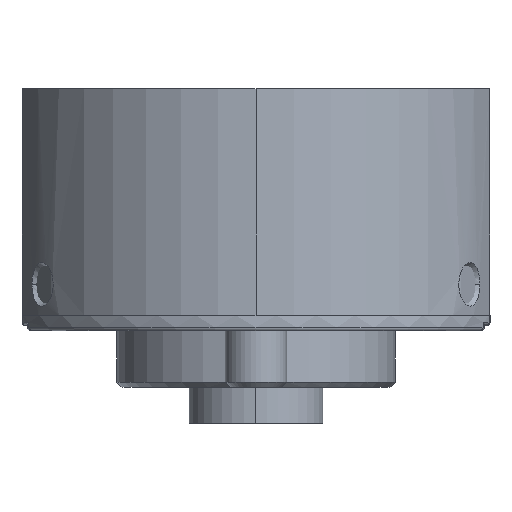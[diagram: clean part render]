
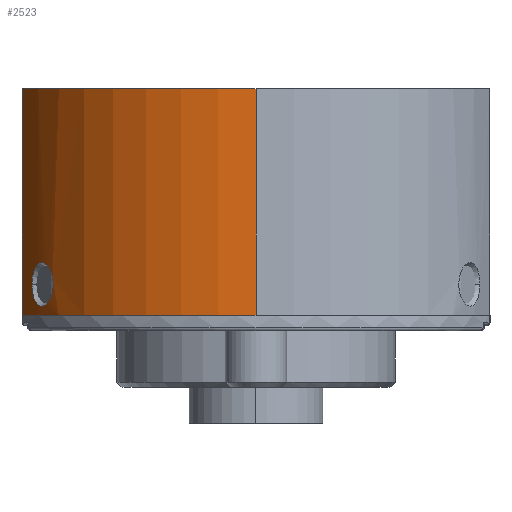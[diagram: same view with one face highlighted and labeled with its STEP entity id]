
A CAD part, front view. The second image highlights one B-rep face of the part: STEP entity #2523.
In plain terms, the highlighted cylindrical face has radius 24 mm (diameter 48 mm), a partial arc.
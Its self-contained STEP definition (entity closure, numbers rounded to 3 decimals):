
#57 = B_SPLINE_CURVE_WITH_KNOTS ( 'NONE', 3,
 ( #5719, #6484, #2310, #4993, #6576, #2880, #5861, #7968, #4382, #2930, #5810, #2218, #7294, #8780, #2261, #5134, #1547, #4427, #8976, #1693, #3121, #919, #1827, #3256, #6729, #7534, #9070, #6675, #2541, #156 ),
 .UNSPECIFIED., .F., .F.,
 ( 4, 2, 2, 2, 2, 2, 2, 2, 2, 2, 2, 2, 2, 2, 4 ),
 ( 0.009, 0.01, 0.011, 0.011, 0.011, 0.012, 0.012, 0.013, 0.013, 0.014, 0.014, 0.015, 0.015, 0.015, 0.016 ),
 .UNSPECIFIED. ) ;
#89 = CARTESIAN_POINT ( 'NONE',  ( -21.734, 19., -10.181 ) ) ;
#113 = VERTEX_POINT ( 'NONE', #2098 ) ;
#156 = CARTESIAN_POINT ( 'NONE',  ( -19.684, 19., -13.731 ) ) ;
#291 = CARTESIAN_POINT ( 'NONE',  ( -21.734, 19., -10.181 ) ) ;
#356 = VERTEX_POINT ( 'NONE', #89 ) ;
#386 = CARTESIAN_POINT ( 'NONE',  ( -19.691, 19.272, -13.721 ) ) ;
#919 = CARTESIAN_POINT ( 'NONE',  ( -19.964, 17.614, -13.321 ) ) ;
#962 = CARTESIAN_POINT ( 'NONE',  ( -19.799, 19.925, -13.565 ) ) ;
#1011 = CARTESIAN_POINT ( 'NONE',  ( -19.742, 19.672, -13.648 ) ) ;
#1052 = CARTESIAN_POINT ( 'NONE',  ( -20.509, 21.045, -12.466 ) ) ;
#1222 = DIRECTION ( 'NONE',  ( 0., 1., 0. ) ) ;
#1275 = DIRECTION ( 'NONE',  ( 0., 0., 1. ) ) ;
#1545 = DIRECTION ( 'NONE',  ( 0., 1., 0. ) ) ;
#1547 = CARTESIAN_POINT ( 'NONE',  ( -20.507, 16.942, -12.47 ) ) ;
#1624 = CIRCLE ( 'NONE', #8153, 24. ) ;
#1693 = CARTESIAN_POINT ( 'NONE',  ( -20.124, 17.329, -13.078 ) ) ;
#1726 = EDGE_LOOP ( 'NONE', ( #6011, #2264, #5696, #6887 ) ) ;
#1736 = CYLINDRICAL_SURFACE ( 'NONE', #4167, 24. ) ;
#1781 = CARTESIAN_POINT ( 'NONE',  ( -19.684, 19.137, -13.731 ) ) ;
#1818 = CARTESIAN_POINT ( 'NONE',  ( -20.852, 21.115, -11.884 ) ) ;
#1827 = CARTESIAN_POINT ( 'NONE',  ( -19.916, 17.723, -13.392 ) ) ;
#1869 = CARTESIAN_POINT ( 'NONE',  ( -21.289, 20.841, -11.084 ) ) ;
#1873 = DIRECTION ( 'NONE',  ( 0., 0., -1. ) ) ;
#2074 = CARTESIAN_POINT ( 'NONE',  ( -22.619, 0., -8.023 ) ) ;
#2098 = CARTESIAN_POINT ( 'NONE',  ( -22.619, 22., -8.023 ) ) ;
#2218 = CARTESIAN_POINT ( 'NONE',  ( -21.113, 16.997, -11.413 ) ) ;
#2261 = CARTESIAN_POINT ( 'NONE',  ( -20.855, 16.885, -11.879 ) ) ;
#2264 = ORIENTED_EDGE ( 'NONE', *, *, #6822, .T. ) ;
#2310 = CARTESIAN_POINT ( 'NONE',  ( -21.712, 18.454, -10.228 ) ) ;
#2523 = ADVANCED_FACE ( 'NONE', ( #8340, #3341 ), #1736, .T. ) ;
#2535 = CARTESIAN_POINT ( 'NONE',  ( -21.556, 20.278, -10.553 ) ) ;
#2541 = CARTESIAN_POINT ( 'NONE',  ( -19.684, 18.863, -13.731 ) ) ;
#2579 = CARTESIAN_POINT ( 'NONE',  ( -21.62, 20.049, -10.421 ) ) ;
#2870 = LINE ( 'NONE', #4324, #5149 ) ;
#2880 = CARTESIAN_POINT ( 'NONE',  ( -21.556, 17.723, -10.552 ) ) ;
#2930 = CARTESIAN_POINT ( 'NONE',  ( -21.286, 17.173, -11.087 ) ) ;
#3121 = CARTESIAN_POINT ( 'NONE',  ( -20.068, 17.417, -13.164 ) ) ;
#3176 = CIRCLE ( 'NONE', #6813, 24. ) ;
#3249 = CARTESIAN_POINT ( 'NONE',  ( -20.92, 21.101, -11.764 ) ) ;
#3252 = CARTESIAN_POINT ( 'NONE',  ( 0., 22., 0. ) ) ;
#3256 = CARTESIAN_POINT ( 'NONE',  ( -19.834, 17.952, -13.513 ) ) ;
#3272 = DIRECTION ( 'NONE',  ( 0., 1., 0. ) ) ;
#3341 = FACE_OUTER_BOUND ( 'NONE', #1726, .T. ) ;
#3353 = VECTOR ( 'NONE', #3272, 1000. ) ;
#3865 = CARTESIAN_POINT ( 'NONE',  ( -21.519, 20.385, -10.628 ) ) ;
#3887 = ORIENTED_EDGE ( 'NONE', *, *, #9382, .T. ) ;
#3908 = CARTESIAN_POINT ( 'NONE',  ( -20.243, 20.84, -12.895 ) ) ;
#3949 = CARTESIAN_POINT ( 'NONE',  ( -20.647, 21.101, -12.236 ) ) ;
#4012 = ORIENTED_EDGE ( 'NONE', *, *, #6490, .T. ) ;
#4167 = AXIS2_PLACEMENT_3D ( 'NONE', #3252, #6999, #1873 ) ;
#4324 = CARTESIAN_POINT ( 'NONE',  ( 0., 22., -24. ) ) ;
#4382 = CARTESIAN_POINT ( 'NONE',  ( -21.388, 17.329, -10.889 ) ) ;
#4427 = CARTESIAN_POINT ( 'NONE',  ( -20.31, 17.104, -12.788 ) ) ;
#4721 = EDGE_CURVE ( 'NONE', #4891, #9218, #1624, .T. ) ;
#4863 = CARTESIAN_POINT ( 'NONE',  ( 0., 0., 0. ) ) ;
#4891 = VERTEX_POINT ( 'NONE', #8262 ) ;
#4993 = CARTESIAN_POINT ( 'NONE',  ( -21.647, 18.076, -10.363 ) ) ;
#5134 = CARTESIAN_POINT ( 'NONE',  ( -20.648, 16.884, -12.236 ) ) ;
#5144 = VERTEX_POINT ( 'NONE', #8498 ) ;
#5149 = VECTOR ( 'NONE', #5751, 1000. ) ;
#5205 = EDGE_CURVE ( 'NONE', #5144, #113, #3176, .T. ) ;
#5264 = B_SPLINE_CURVE_WITH_KNOTS ( 'NONE', 3,
 ( #8196, #1781, #386, #5458, #1011, #962, #6001, #8385, #6086, #5368, #3908, #7476, #1052, #3949, #5414, #1818, #3249, #9065, #6042, #1869, #6810, #3865, #2535, #2579, #9108, #6772, #8339, #291 ),
 .UNSPECIFIED., .F., .F.,
 ( 4, 2, 2, 2, 2, 2, 2, 2, 2, 2, 2, 2, 2, 4 ),
 ( 0.003, 0.003, 0.004, 0.004, 0.004, 0.005, 0.006, 0.006, 0.007, 0.007, 0.008, 0.008, 0.009, 0.009 ),
 .UNSPECIFIED. ) ;
#5368 = CARTESIAN_POINT ( 'NONE',  ( -20.119, 20.679, -13.087 ) ) ;
#5414 = CARTESIAN_POINT ( 'NONE',  ( -20.715, 21.115, -12.12 ) ) ;
#5458 = CARTESIAN_POINT ( 'NONE',  ( -19.72, 19.539, -13.679 ) ) ;
#5696 = ORIENTED_EDGE ( 'NONE', *, *, #4721, .T. ) ;
#5719 = CARTESIAN_POINT ( 'NONE',  ( -21.734, 19., -10.181 ) ) ;
#5751 = DIRECTION ( 'NONE',  ( 0., -1., 0. ) ) ;
#5810 = CARTESIAN_POINT ( 'NONE',  ( -21.231, 17.106, -11.192 ) ) ;
#5861 = CARTESIAN_POINT ( 'NONE',  ( -21.519, 17.616, -10.628 ) ) ;
#5904 = DIRECTION ( 'NONE',  ( 0., 0., 1. ) ) ;
#6001 = CARTESIAN_POINT ( 'NONE',  ( -19.834, 20.046, -13.514 ) ) ;
#6011 = ORIENTED_EDGE ( 'NONE', *, *, #5205, .F. ) ;
#6042 = CARTESIAN_POINT ( 'NONE',  ( -21.111, 21.005, -11.417 ) ) ;
#6086 = CARTESIAN_POINT ( 'NONE',  ( -19.964, 20.385, -13.321 ) ) ;
#6208 = CARTESIAN_POINT ( 'NONE',  ( -22.619, 22., -8.023 ) ) ;
#6484 = CARTESIAN_POINT ( 'NONE',  ( -21.734, 18.729, -10.181 ) ) ;
#6490 = EDGE_CURVE ( 'NONE', #356, #7285, #57, .T. ) ;
#6576 = CARTESIAN_POINT ( 'NONE',  ( -21.62, 17.953, -10.42 ) ) ;
#6675 = CARTESIAN_POINT ( 'NONE',  ( -19.691, 18.726, -13.721 ) ) ;
#6729 = CARTESIAN_POINT ( 'NONE',  ( -19.799, 18.073, -13.564 ) ) ;
#6772 = CARTESIAN_POINT ( 'NONE',  ( -21.712, 19.546, -10.228 ) ) ;
#6810 = CARTESIAN_POINT ( 'NONE',  ( -21.392, 20.682, -10.882 ) ) ;
#6813 = AXIS2_PLACEMENT_3D ( 'NONE', #9401, #1545, #5904 ) ;
#6822 = EDGE_CURVE ( 'NONE', #5144, #4891, #2870, .T. ) ;
#6831 = LINE ( 'NONE', #6208, #3353 ) ;
#6887 = ORIENTED_EDGE ( 'NONE', *, *, #7334, .T. ) ;
#6999 = DIRECTION ( 'NONE',  ( 0., -1., 0. ) ) ;
#7285 = VERTEX_POINT ( 'NONE', #7354 ) ;
#7294 = CARTESIAN_POINT ( 'NONE',  ( -21.05, 16.955, -11.529 ) ) ;
#7334 = EDGE_CURVE ( 'NONE', #9218, #113, #6831, .T. ) ;
#7354 = CARTESIAN_POINT ( 'NONE',  ( -19.684, 19., -13.731 ) ) ;
#7476 = CARTESIAN_POINT ( 'NONE',  ( -20.44, 21.003, -12.578 ) ) ;
#7534 = CARTESIAN_POINT ( 'NONE',  ( -19.742, 18.329, -13.648 ) ) ;
#7968 = CARTESIAN_POINT ( 'NONE',  ( -21.435, 17.419, -10.795 ) ) ;
#8153 = AXIS2_PLACEMENT_3D ( 'NONE', #4863, #1222, #1275 ) ;
#8196 = CARTESIAN_POINT ( 'NONE',  ( -19.684, 19., -13.731 ) ) ;
#8262 = CARTESIAN_POINT ( 'NONE',  ( 0., 0., -24. ) ) ;
#8339 = CARTESIAN_POINT ( 'NONE',  ( -21.734, 19.271, -10.181 ) ) ;
#8340 = FACE_BOUND ( 'NONE', #9412, .T. ) ;
#8385 = CARTESIAN_POINT ( 'NONE',  ( -19.916, 20.276, -13.392 ) ) ;
#8498 = CARTESIAN_POINT ( 'NONE',  ( 0., 22., -24. ) ) ;
#8780 = CARTESIAN_POINT ( 'NONE',  ( -20.921, 16.899, -11.761 ) ) ;
#8976 = CARTESIAN_POINT ( 'NONE',  ( -20.245, 17.172, -12.89 ) ) ;
#9065 = CARTESIAN_POINT ( 'NONE',  ( -21.049, 21.046, -11.531 ) ) ;
#9070 = CARTESIAN_POINT ( 'NONE',  ( -19.72, 18.459, -13.679 ) ) ;
#9108 = CARTESIAN_POINT ( 'NONE',  ( -21.647, 19.925, -10.364 ) ) ;
#9218 = VERTEX_POINT ( 'NONE', #2074 ) ;
#9382 = EDGE_CURVE ( 'NONE', #7285, #356, #5264, .T. ) ;
#9401 = CARTESIAN_POINT ( 'NONE',  ( 0., 22., 0. ) ) ;
#9412 = EDGE_LOOP ( 'NONE', ( #4012, #3887 ) ) ;
